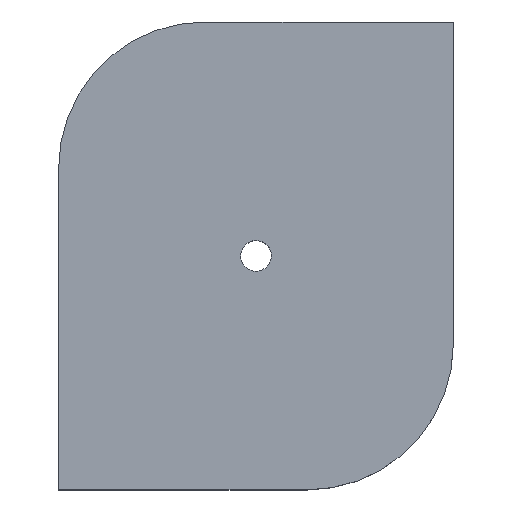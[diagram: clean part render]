
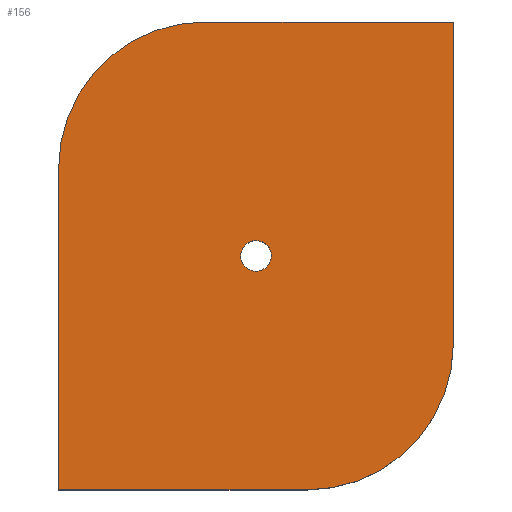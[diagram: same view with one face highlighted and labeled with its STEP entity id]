
A CAD part, top view. The second image highlights one B-rep face of the part: STEP entity #156.
In plain terms, the highlighted planar face has unit normal (0, 0, 1).
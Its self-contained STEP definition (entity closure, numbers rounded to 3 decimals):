
#63=CARTESIAN_POINT('Vertex',(50.325,66.008,23.)) ;
#77=CARTESIAN_POINT('Vertex',(57.675,61.992,23.)) ;
#80=CARTESIAN_POINT('Axis2P3D Location',(54.,64.,23.)) ;
#92=CARTESIAN_POINT('Axis2P3D Location',(0.,0.,23.)) ;
#97=CARTESIAN_POINT('Line Origine',(0.,44.,23.)) ;
#101=CARTESIAN_POINT('Vertex',(0.,88.,23.)) ;
#103=CARTESIAN_POINT('Vertex',(0.,0.,23.)) ;
#106=CARTESIAN_POINT('Line Origine',(34.,0.,23.)) ;
#110=CARTESIAN_POINT('Vertex',(68.,0.,23.)) ;
#113=CARTESIAN_POINT('Axis2P3D Location',(68.,40.,23.)) ;
#117=CARTESIAN_POINT('Vertex',(108.,40.,23.)) ;
#120=CARTESIAN_POINT('Line Origine',(108.,84.,23.)) ;
#124=CARTESIAN_POINT('Vertex',(108.,128.,23.)) ;
#127=CARTESIAN_POINT('Line Origine',(74.,128.,23.)) ;
#131=CARTESIAN_POINT('Vertex',(40.,128.,23.)) ;
#134=CARTESIAN_POINT('Axis2P3D Location',(40.,88.,23.)) ;
#147=CARTESIAN_POINT('Axis2P3D Location',(54.,64.,23.)) ;
#81=DIRECTION('Axis2P3D Direction',(0.,-0.,-1.)) ;
#93=DIRECTION('Axis2P3D Direction',(0.,0.,1.)) ;
#94=DIRECTION('Axis2P3D XDirection',(1.,0.,0.)) ;
#98=DIRECTION('Vector Direction',(0.,-1.,0.)) ;
#107=DIRECTION('Vector Direction',(1.,0.,0.)) ;
#114=DIRECTION('Axis2P3D Direction',(0.,0.,1.)) ;
#121=DIRECTION('Vector Direction',(0.,1.,0.)) ;
#128=DIRECTION('Vector Direction',(-1.,0.,0.)) ;
#135=DIRECTION('Axis2P3D Direction',(0.,0.,1.)) ;
#148=DIRECTION('Axis2P3D Direction',(0.,0.,1.)) ;
#82=AXIS2_PLACEMENT_3D('Circle Axis2P3D',#80,#81,$) ;
#95=AXIS2_PLACEMENT_3D('Plane Axis2P3D',#92,#93,#94) ;
#115=AXIS2_PLACEMENT_3D('Circle Axis2P3D',#113,#114,$) ;
#136=AXIS2_PLACEMENT_3D('Circle Axis2P3D',#134,#135,$) ;
#149=AXIS2_PLACEMENT_3D('Circle Axis2P3D',#147,#148,$) ;
#140=ORIENTED_EDGE('',*,*,#105,.T.) ;
#141=ORIENTED_EDGE('',*,*,#112,.T.) ;
#142=ORIENTED_EDGE('',*,*,#119,.F.) ;
#143=ORIENTED_EDGE('',*,*,#126,.T.) ;
#144=ORIENTED_EDGE('',*,*,#133,.T.) ;
#145=ORIENTED_EDGE('',*,*,#138,.F.) ;
#153=ORIENTED_EDGE('',*,*,#151,.F.) ;
#154=ORIENTED_EDGE('',*,*,#84,.F.) ;
#155=FACE_BOUND('',#152,.T.) ;
#99=VECTOR('Line Direction',#98,1.) ;
#108=VECTOR('Line Direction',#107,1.) ;
#122=VECTOR('Line Direction',#121,1.) ;
#129=VECTOR('Line Direction',#128,1.) ;
#156=ADVANCED_FACE('PartBody',(#146,#155),#96,.T.) ;
#83=CIRCLE('generated circle',#82,4.188) ;
#116=CIRCLE('generated circle',#115,40.) ;
#137=CIRCLE('generated circle',#136,40.) ;
#150=CIRCLE('generated circle',#149,4.188) ;
#84=EDGE_CURVE('',#78,#64,#83,.F.) ;
#105=EDGE_CURVE('',#102,#104,#100,.T.) ;
#112=EDGE_CURVE('',#104,#111,#109,.T.) ;
#119=EDGE_CURVE('',#118,#111,#116,.F.) ;
#126=EDGE_CURVE('',#118,#125,#123,.T.) ;
#133=EDGE_CURVE('',#125,#132,#130,.T.) ;
#138=EDGE_CURVE('',#102,#132,#137,.F.) ;
#151=EDGE_CURVE('',#64,#78,#150,.T.) ;
#139=EDGE_LOOP('',(#140,#141,#142,#143,#144,#145)) ;
#152=EDGE_LOOP('',(#153,#154)) ;
#146=FACE_OUTER_BOUND('',#139,.T.) ;
#100=LINE('Line',#97,#99) ;
#109=LINE('Line',#106,#108) ;
#123=LINE('Line',#120,#122) ;
#130=LINE('Line',#127,#129) ;
#96=PLANE('',#95) ;
#64=VERTEX_POINT('',#63) ;
#78=VERTEX_POINT('',#77) ;
#102=VERTEX_POINT('',#101) ;
#104=VERTEX_POINT('',#103) ;
#111=VERTEX_POINT('',#110) ;
#118=VERTEX_POINT('',#117) ;
#125=VERTEX_POINT('',#124) ;
#132=VERTEX_POINT('',#131) ;
